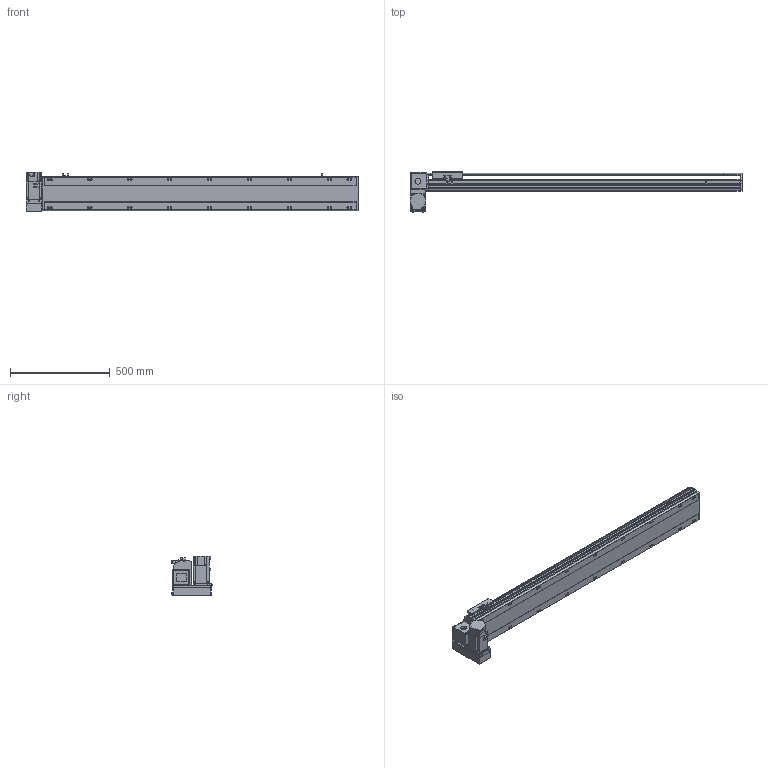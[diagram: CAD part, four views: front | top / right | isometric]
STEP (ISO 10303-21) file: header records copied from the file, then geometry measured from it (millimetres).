
FILE_DESCRIPTION(/* description */ ('STEP AP214'),/* implementation_level */ '2;1');
FILE_NAME(/* name */ 'PBS170-P40-S1300-LD-T75-C1-N(0)',/* time_stamp */ '2022-06-07T09:53:25+02:00',/* author */ ('License CC BY-ND 4.0'),/* organization */ ('CADENAS'),/* preprocessor_version */ 'ST-DEVELOPER v18.102',/* originating_system */ 'PARTsolutions',/* authorisation */ ' ');
FILE_SCHEMA (('AUTOMOTIVE_DESIGN {1 0 10303 214 3 1 1}'));
Length unit declared in the file: millimetre
Products named in the file (7): PBS170-P40-S1300-LD-T75-C1-N(0); PBS170_sensor; PBS170_plant; PBS170_sliser; T75-p1; PBS170T-LD_motors; PBS170-S1300()_body
Assembly tree (8 placements, depth 2):
  PBS170-P40-S1300-LD-T75-C1-N(0)
    PBS170_sensor  x3
    PBS170_plant
    PBS170_sliser
    T75-p1
    PBS170T-LD_motors
    PBS170-S1300()_body
Bounding box: 1663 x 201 x 197.3 mm (x, y, z)
Volume: 13126932.8 mm3; surface area: 1698494 mm2
Topology: 8 solids, 8 shells, 1098 faces, 2915 edges, 1900 vertices
Faces by surface type: plane 693, cylinder 347, cone 48, sphere 8, torus 2
Full cylindrical faces by diameter (mm): 3.242 x4, 4 x2, 4.4 x4, 4.5 x6, 4.917 x4, 6 x9, 6.647 x26, 7 x2, 7.5 x4, 8 x8, 8.5 x18, 10 x4, 10.5 x18, 11 x2, 30 x2, 40 x1, 70 x1
Entity records: 31576 total; most frequent: CARTESIAN_POINT 5825, DIRECTION 5370, ORIENTED_EDGE 5088, EDGE_CURVE 2544, AXIS2_PLACEMENT_3D 1867, VERTEX_POINT 1754, LINE 1636, VECTOR 1636
